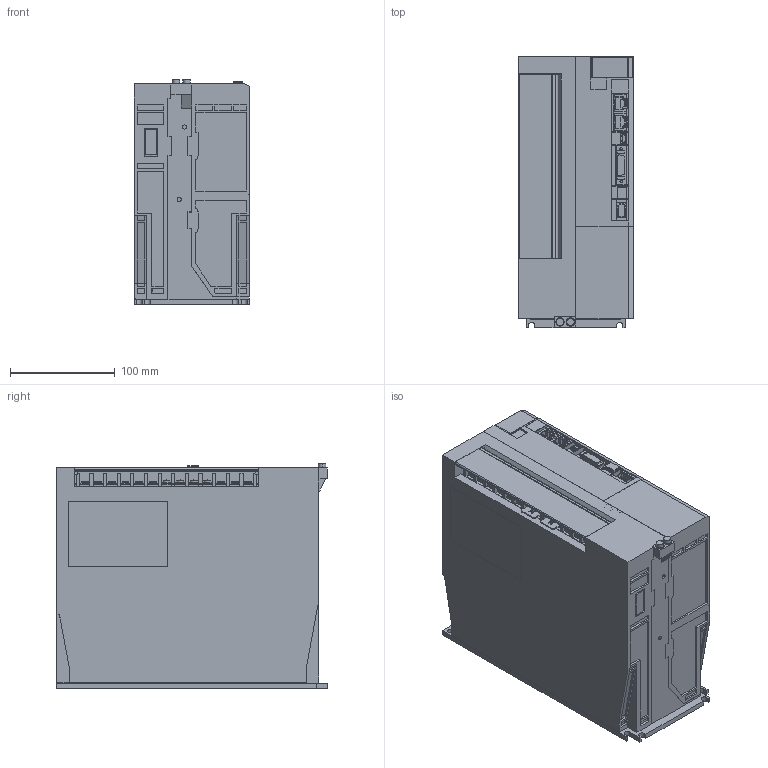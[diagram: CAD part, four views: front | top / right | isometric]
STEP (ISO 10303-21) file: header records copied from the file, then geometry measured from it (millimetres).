
FILE_DESCRIPTION((''),'2;1');
FILE_NAME('SGDXS-330A40A_ASM_6_ASM','2022-03-17T',('user237'),('Yaskawa Electric (Shenyang) Co.,Ltd'),'PRO/ENGINEER BY PARAMETRIC TECHNOLOGY CORPORATION, 2017170','PRO/ENGINEER BY PARAMETRIC TECHNOLOGY CORPORATION, 2017170','');
FILE_SCHEMA(('AUTOMOTIVE_DESIGN { 1 0 10303 214 1 1 1 1 }'));
Products named in the file (7): SGDXS-330A40A_BASE; SGMXS-330A40A_CONNECTOR1_1_2; SGMXS-330A40A_COVER1_1_2; SGMXS-330A40A_COVER2_2; SGMXS-330A40A_COVER3_1_2; SGMXS-330A40A_COVER4_AF0_3_1; SGDXS-330A40A_ASM_6_ASM
Assembly tree (6 placements, depth 2):
  SGDXS-330A40A_ASM_6_ASM
    SGDXS-330A40A_BASE
    SGMXS-330A40A_CONNECTOR1_1_2
    SGMXS-330A40A_COVER1_1_2
    SGMXS-330A40A_COVER2_2
    SGMXS-330A40A_COVER3_1_2
    SGMXS-330A40A_COVER4_AF0_3_1
Bounding box: 110.51 x 258.01 x 214.1 mm (x, y, z)
Volume: 5510273.2 mm3; surface area: 289643.1 mm2
Topology: 6 solids, 6 shells, 2453 faces, 6678 edges, 4328 vertices
Faces by surface type: plane 2020, cylinder 311, sphere 42, torus 40, cone 35, bspline 5
Entity records: 93457 total; most frequent: CARTESIAN_POINT 14417, ORIENTED_EDGE 13278, DIRECTION 12268, EDGE_CURVE 6639, VECTOR 5698, LINE 5698, VERTEX_POINT 4328, AXIS2_PLACEMENT_3D 3285
